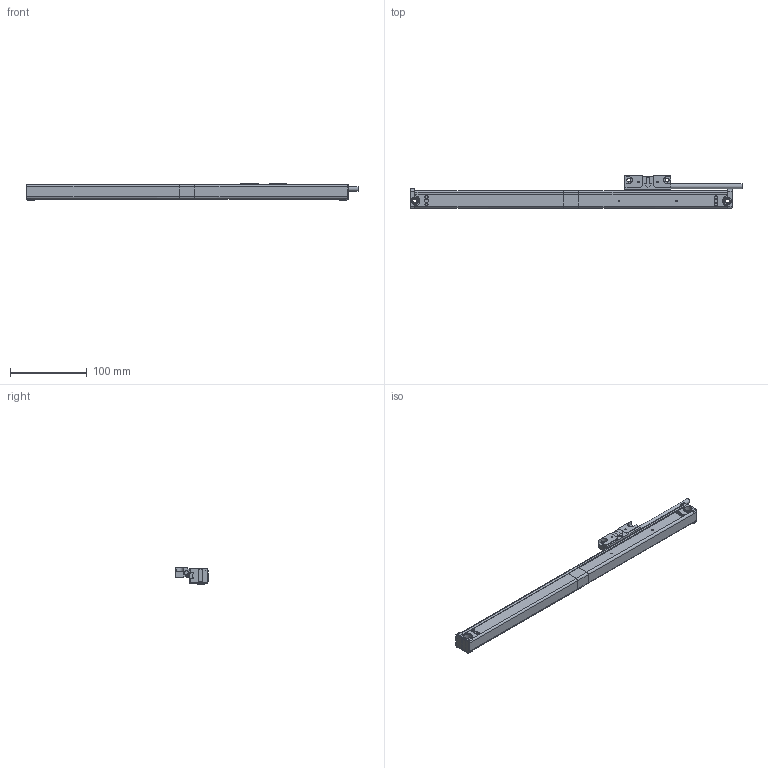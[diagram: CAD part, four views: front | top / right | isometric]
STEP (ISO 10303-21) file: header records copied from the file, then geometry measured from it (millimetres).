
FILE_DESCRIPTION( ( 'STEP AP203' ), '1' );
FILE_NAME( 'N:/Engineering/CAD_Solid/Magnescale/GBER/GB-030ER_SR138-030R.stp', '2013-03-14T10:07:50', ( ' ' ), ( ' ' ), 'XStep 1.0', ' ', ' ' );
FILE_SCHEMA( ( 'CONFIG_CONTROL_DESIGN) ( )' ) );
Length unit declared in the file: metre
Products named in the file (1): 1
Bounding box: 432.5 x 42 x 21 mm (x, y, z)
Surface area: 47958 mm2 (no closed solid volume)
Topology: 0 solids, 304 shells, 304 faces, 1654 edges, 1617 vertices
Faces by surface type: plane 194, cylinder 88, torus 12, cone 10
Full cylindrical faces by diameter (mm): 2.013 x2, 2.113 x2, 3.242 x2, 4 x8, 4.8 x2, 5 x2, 6 x1, 9.8 x2, 10 x2
Entity records: 15978 total; most frequent: CARTESIAN_POINT 3517, DIRECTION 2696, ORIENTED_EDGE 1606, EDGE_CURVE 1606, VERTEX_POINT 1606, LINE 1126, VECTOR 1126, AXIS2_PLACEMENT_3D 785
